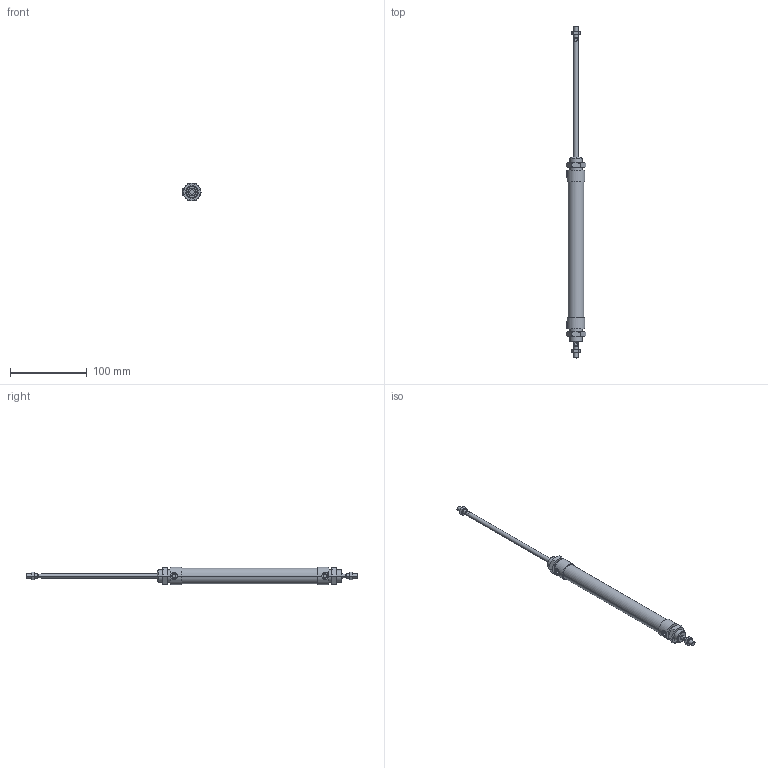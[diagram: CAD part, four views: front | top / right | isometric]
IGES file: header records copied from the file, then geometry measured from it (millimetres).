
Global section: file name: No Iges File Name specified; native system: AutoDesk Inventor R10; preprocessor: AutoDesk Inventor Iges Exporter R10; author: No Author specified; organization: No Organization specified; date: 20060105.143401; units: millimetre
Bounding box: 25.4 x 432 x 23 mm (x, y, z)
Volume: 83209.8 mm3; surface area: 31707.1 mm2
Topology: 6 solids, 6 shells, 184 faces, 394 edges, 230 vertices
Faces by surface type: cone 68, plane 58, cylinder 24, bspline 20, revolution 14
